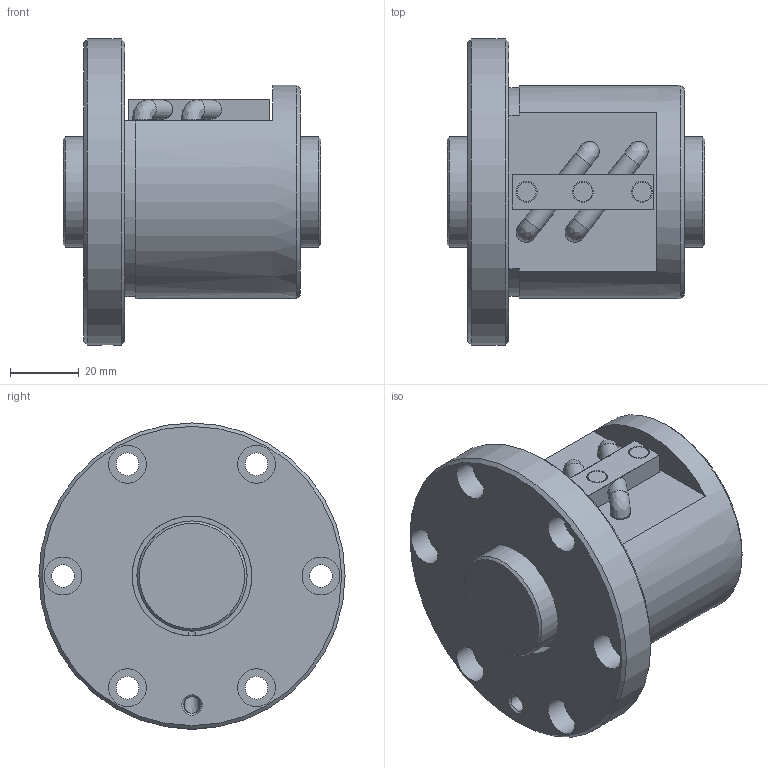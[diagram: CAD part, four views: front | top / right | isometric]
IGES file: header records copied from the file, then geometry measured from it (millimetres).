
Start section: Data from Parasolid IGES Translator 26.0.171, Copyright(c) 2006 Siemens PLM Software. All Rights Reserved.
Global section: file name: BIF3206V-5RRG0+75LC0_000.igs; native system: By Siemens PLM Incorporated; preprocessor: XPlus GENERIC/IGES 26.0.171; author: Noname; organization: Noname; date: 20240715.082300; units: millimetre
Bounding box: 75 x 89 x 89 mm (x, y, z)
Surface area: 43253.8 mm2 (no closed solid volume)
Topology: 0 solids, 0 shells, 98 faces, 462 edges, 421 vertices
Faces by surface type: revolution 57, extrusion 41
